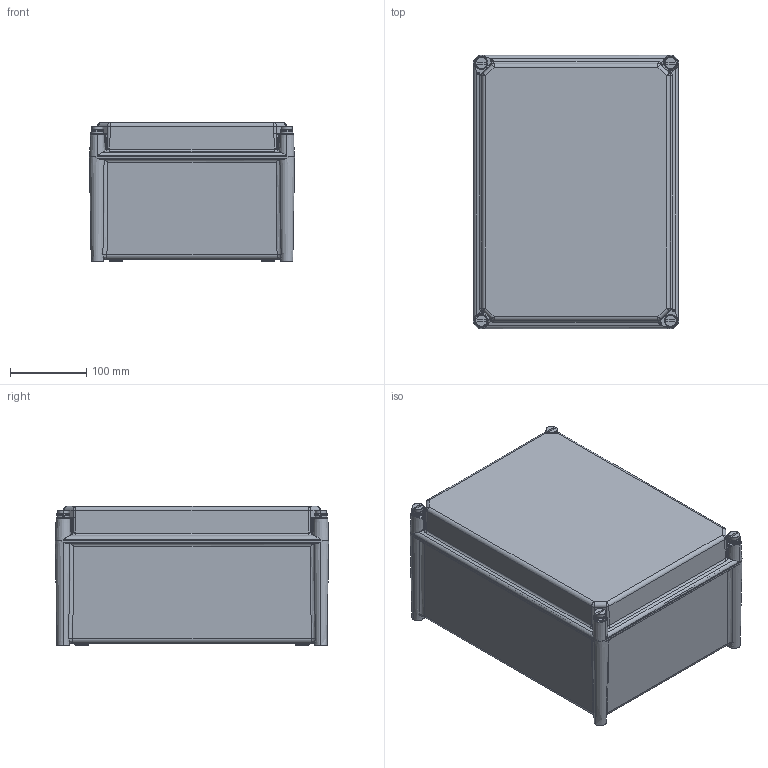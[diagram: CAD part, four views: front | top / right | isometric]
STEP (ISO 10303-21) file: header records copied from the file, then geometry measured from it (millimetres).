
FILE_DESCRIPTION(('STEP AP242'),'1');
FILE_NAME('nsypls2736g.stp','2018-11-12T22:22:43',('TraceParts'),('TraceParts S.A.'),'Spatial InterOp 3D',' ',' ');
FILE_SCHEMA(('AP242_MANAGED_MODEL_BASED_3D_ENGINEERING_MIM_LF {1 0 10303 442 1 1 4}'));
Length unit declared in the file: millimetre
Products named in the file (1): nsypls2736g_1
Bounding box: 270 x 360 x 183 mm (x, y, z)
Volume: 1043457.3 mm3; surface area: 855552.4 mm2
Topology: 8 solids, 8 shells, 1699 faces, 4170 edges, 2453 vertices
Faces by surface type: plane 591, cylinder 552, sphere 132, cone 124, torus 116, bspline 104, extrusion 80
Entity records: 54384 total; most frequent: CARTESIAN_POINT 16502, ORIENTED_EDGE 8062, DIRECTION 7485, EDGE_CURVE 4031, AXIS2_PLACEMENT_3D 2774, VERTEX_POINT 2453, VECTOR 1937, LINE 1857
